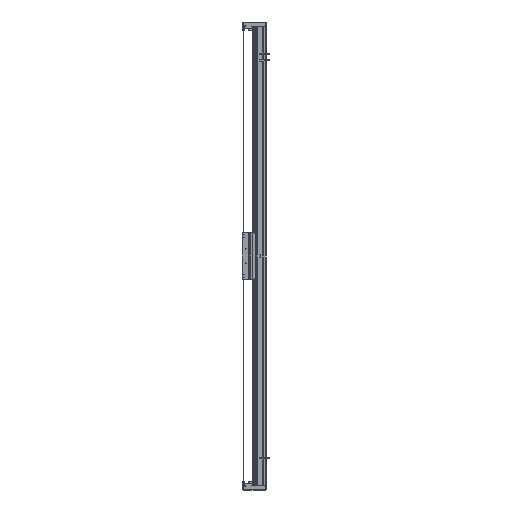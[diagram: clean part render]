
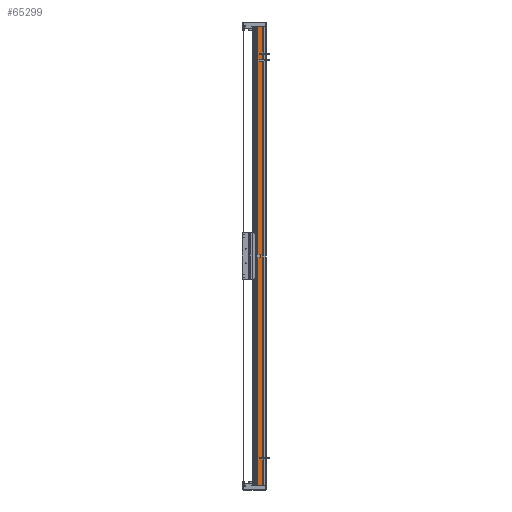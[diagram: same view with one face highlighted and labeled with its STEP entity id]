
A CAD part, left-side view. The second image highlights one B-rep face of the part: STEP entity #65299.
In plain terms, the highlighted planar face has unit normal (-1, 0, 0).
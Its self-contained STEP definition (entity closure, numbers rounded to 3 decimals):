
#238 = DIRECTION ( 'NONE',  ( 0., 0., -1. ) ) ;
#4507 = DIRECTION ( 'NONE',  ( 0., 0., -1. ) ) ;
#7897 = VECTOR ( 'NONE', #238, 1000. ) ;
#8260 = AXIS2_PLACEMENT_3D ( 'NONE', #89577, #45834, #72317 ) ;
#11715 = ORIENTED_EDGE ( 'NONE', *, *, #91872, .F. ) ;
#13201 = VECTOR ( 'NONE', #60384, 1000. ) ;
#18018 = CARTESIAN_POINT ( 'NONE',  ( -82.5, 14.45, 930. ) ) ;
#19437 = FACE_OUTER_BOUND ( 'NONE', #66931, .T. ) ;
#20012 = CARTESIAN_POINT ( 'NONE',  ( -82.5, 36.95, 930. ) ) ;
#20512 = VERTEX_POINT ( 'NONE', #34670 ) ;
#20886 = CARTESIAN_POINT ( 'NONE',  ( -82.5, 14.45, -930. ) ) ;
#21313 = VERTEX_POINT ( 'NONE', #78640 ) ;
#27935 = CARTESIAN_POINT ( 'NONE',  ( -82.5, 36.95, 930. ) ) ;
#33970 = CARTESIAN_POINT ( 'NONE',  ( -82.5, 36.95, -930. ) ) ;
#34670 = CARTESIAN_POINT ( 'NONE',  ( -82.5, 36.95, 930. ) ) ;
#43360 = VECTOR ( 'NONE', #71073, 1000. ) ;
#44428 = LINE ( 'NONE', #18018, #7897 ) ;
#44845 = LINE ( 'NONE', #33970, #13201 ) ;
#45834 = DIRECTION ( 'NONE',  ( 1., 0., 0. ) ) ;
#52519 = VECTOR ( 'NONE', #4507, 1000. ) ;
#54449 = PLANE ( 'NONE',  #8260 ) ;
#60384 = DIRECTION ( 'NONE',  ( 0., -1., 0. ) ) ;
#62981 = ORIENTED_EDGE ( 'NONE', *, *, #82620, .F. ) ;
#65299 = ADVANCED_FACE ( 'NONE', ( #19437 ), #54449, .F. ) ;
#66931 = EDGE_LOOP ( 'NONE', ( #107617, #11715, #62981, #100135 ) ) ;
#71073 = DIRECTION ( 'NONE',  ( 0., -1., 0. ) ) ;
#72317 = DIRECTION ( 'NONE',  ( 0., 1., 0. ) ) ;
#78640 = CARTESIAN_POINT ( 'NONE',  ( -82.5, 14.45, 930. ) ) ;
#82423 = EDGE_CURVE ( 'NONE', #20512, #110747, #101048, .T. ) ;
#82620 = EDGE_CURVE ( 'NONE', #20512, #21313, #106167, .T. ) ;
#83222 = VERTEX_POINT ( 'NONE', #20886 ) ;
#89577 = CARTESIAN_POINT ( 'NONE',  ( -82.5, 36.95, 930. ) ) ;
#91083 = EDGE_CURVE ( 'NONE', #110747, #83222, #44845, .T. ) ;
#91872 = EDGE_CURVE ( 'NONE', #21313, #83222, #44428, .T. ) ;
#100135 = ORIENTED_EDGE ( 'NONE', *, *, #82423, .T. ) ;
#101048 = LINE ( 'NONE', #20012, #52519 ) ;
#103404 = CARTESIAN_POINT ( 'NONE',  ( -82.5, 36.95, -930. ) ) ;
#106167 = LINE ( 'NONE', #27935, #43360 ) ;
#107617 = ORIENTED_EDGE ( 'NONE', *, *, #91083, .T. ) ;
#110747 = VERTEX_POINT ( 'NONE', #103404 ) ;
